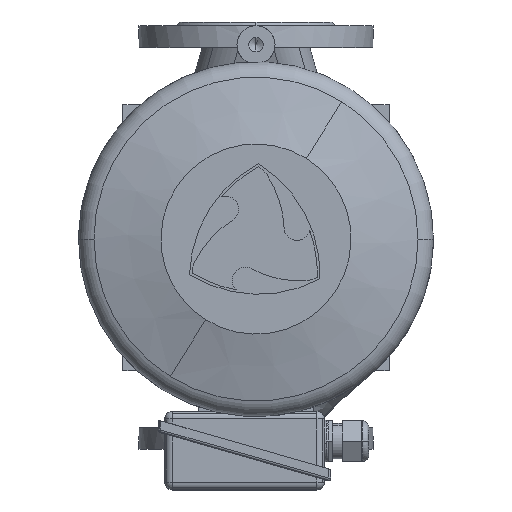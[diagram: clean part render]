
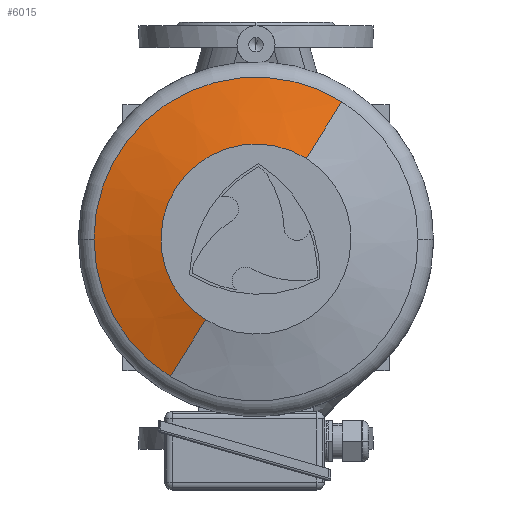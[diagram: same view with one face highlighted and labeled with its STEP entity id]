
A CAD part, top view. The second image highlights one B-rep face of the part: STEP entity #6015.
In plain terms, the highlighted conical face has half-angle 75 degrees and reference radius 101.423 mm.
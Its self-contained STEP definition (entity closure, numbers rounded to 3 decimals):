
#6015=ADVANCED_FACE('',(#12147),#12148,.T.);
#6091=EDGE_CURVE('',#12263,#12264,#12265,.T.);
#6093=EDGE_CURVE('',#12264,#12267,#12268,.T.);
#6095=EDGE_CURVE('',#12270,#12271,#12272,.T.);
#12147=FACE_OUTER_BOUND('',#25799,.T.);
#12148=CONICAL_SURFACE('',#25800,101.423,1.309);
#12263=VERTEX_POINT('',#25916);
#12264=VERTEX_POINT('',#25917);
#12265=CIRCLE('',#25918,127.845);
#12267=VERTEX_POINT('',#25921);
#12268=CIRCLE('',#25922,127.845);
#12270=VERTEX_POINT('',#25925);
#12271=VERTEX_POINT('',#25926);
#12272=CIRCLE('',#25927,75.);
#25799=EDGE_LOOP('',(#34856,#34857,#34858,#34859,#34860));
#25800=AXIS2_PLACEMENT_3D('',#34861,#34862,#34863);
#25916=CARTESIAN_POINT('',(-132.95,-117.911,183.268));
#25917=CARTESIAN_POINT('',(-328.47,-226.376,183.268));
#25918=AXIS2_PLACEMENT_3D('',#35211,#35212,#35213);
#25921=CARTESIAN_POINT('',(-268.3,-334.841,183.268));
#25922=AXIS2_PLACEMENT_3D('',#35214,#35215,#35216);
#25925=CARTESIAN_POINT('',(-160.924,-162.746,197.428));
#25926=CARTESIAN_POINT('',(-240.326,-290.006,197.428));
#25927=AXIS2_PLACEMENT_3D('',#35217,#35218,#35219);
#34856=ORIENTED_EDGE('',*,*,#38483,.F.);
#34857=ORIENTED_EDGE('',*,*,#6091,.T.);
#34858=ORIENTED_EDGE('',*,*,#6093,.T.);
#34859=ORIENTED_EDGE('',*,*,#38484,.F.);
#34860=ORIENTED_EDGE('',*,*,#6095,.F.);
#34861=CARTESIAN_POINT('',(-200.625,-226.376,190.348));
#34862=DIRECTION('',(-0.0,0.0,-1.0));
#34863=DIRECTION('',(0.529,0.848,0.0));
#35211=CARTESIAN_POINT('',(-200.625,-226.376,183.268));
#35212=DIRECTION('',(0.0,-0.0,1.0));
#35213=DIRECTION('',(0.529,0.848,0.0));
#35214=CARTESIAN_POINT('',(-200.625,-226.376,183.268));
#35215=DIRECTION('',(0.0,-0.0,1.0));
#35216=DIRECTION('',(0.529,0.848,0.0));
#35217=CARTESIAN_POINT('',(-200.625,-226.376,197.428));
#35218=DIRECTION('',(0.0,-0.0,1.0));
#35219=DIRECTION('',(0.529,0.848,0.0));
#38483=EDGE_CURVE('',#12263,#12270,#40024,.T.);
#38484=EDGE_CURVE('',#12271,#12267,#40025,.T.);
#40024=LINE('',#44071,#44072);
#40025=LINE('',#44073,#44074);
#44071=CARTESIAN_POINT('',(-146.937,-140.329,190.348));
#44072=VECTOR('',#44952,1.0);
#44073=CARTESIAN_POINT('',(-254.313,-312.424,190.348));
#44074=VECTOR('',#44953,1.0);
#44952=DIRECTION('',(-0.511,-0.819,0.259));
#44953=DIRECTION('',(-0.511,-0.819,-0.259));
